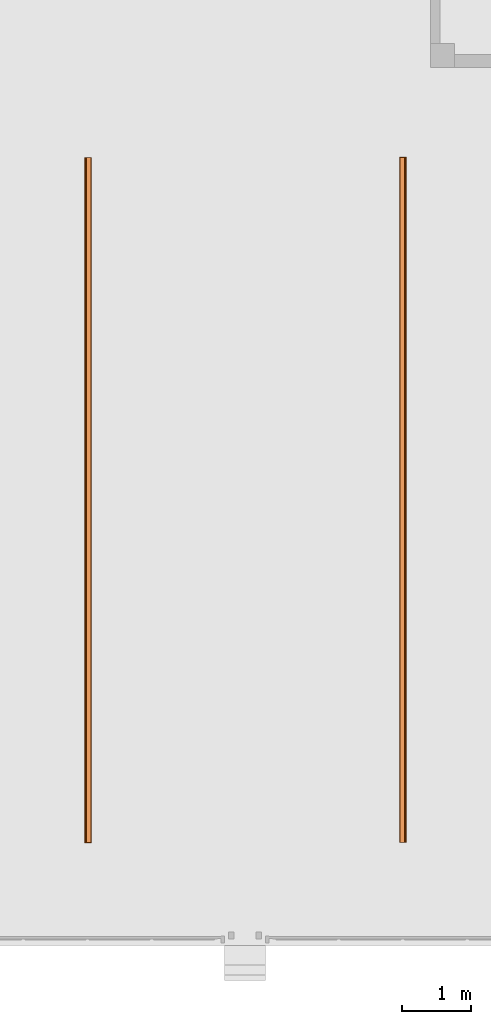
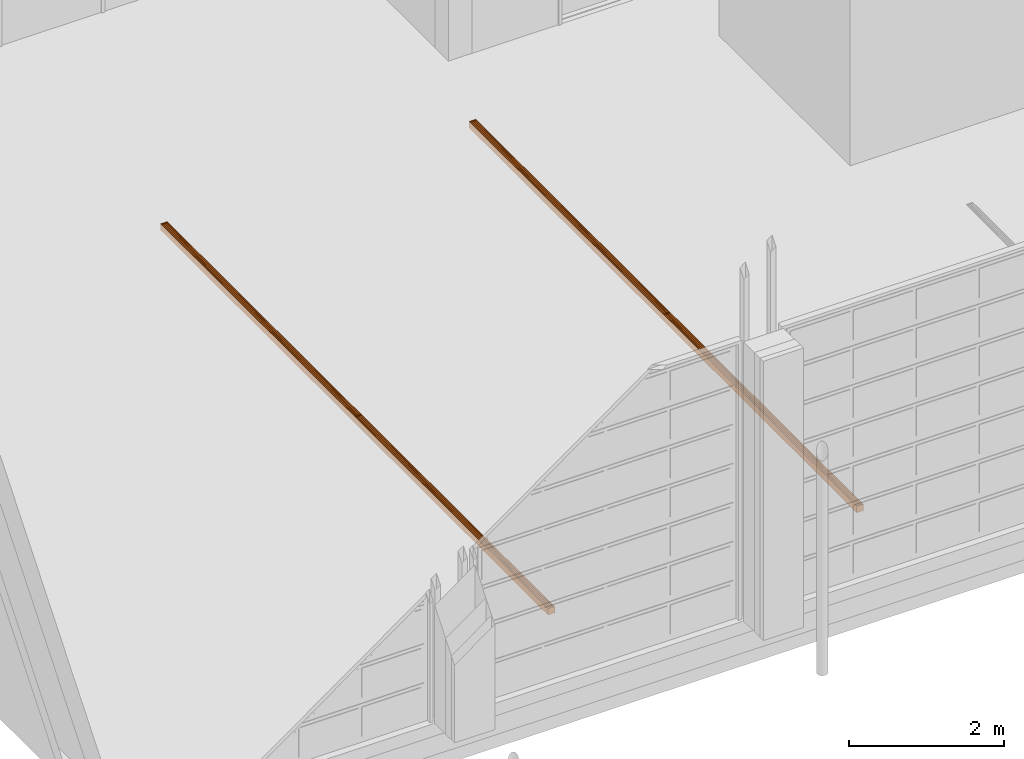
# One storey, part 63 of 112: 2 proxies.
"""IFC2X3 building model written with IfcOpenShell, lengths in millimetres."""

from ifc_helpers import new_model, entity, si_unit, converted_unit, derived_unit, money_unit, direction, frame, origin_with_axes, place, context, subcontext, project, spatial, faceted_brep, source, transform, mapped, type_object, element, save


model = new_model("IFC2X3")

# Units and contexts
model_context = context("Model", 3, precision=0.01, world=origin_with_axes(), true_north=direction((0.0, 1.0)))
body_context = subcontext(model_context, "Body", "Model", "MODEL_VIEW")
ifc_project = project(units=[si_unit("LENGTHUNIT", "METRE", prefix="MILLI"), si_unit("AREAUNIT", "SQUARE_METRE"), si_unit("VOLUMEUNIT", "CUBIC_METRE"), converted_unit("PLANEANGLEUNIT", "DEGREE", entity("IfcPlaneAngleMeasure", 0.0174532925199), si_unit("PLANEANGLEUNIT", "RADIAN"), dimensions=[0, 0, 0, 0, 0, 0, 0]), si_unit("SOLIDANGLEUNIT", "STERADIAN"), money_unit("EUR"), converted_unit("TIMEUNIT", "Year", entity("IfcTimeMeasure", 31556926.0), si_unit("TIMEUNIT", "SECOND"), dimensions=[0, 0, 1, 0, 0, 0, 0]), si_unit("MASSUNIT", "GRAM", prefix="KILO"), si_unit("THERMODYNAMICTEMPERATUREUNIT", "DEGREE_CELSIUS"), si_unit("LUMINOUSINTENSITYUNIT", "LUMEN"), si_unit("ENERGYUNIT", "JOULE", prefix="MEGA"), derived_unit("THERMALCONDUCTANCEUNIT", [(si_unit("POWERUNIT", "WATT"), 1), (si_unit("LENGTHUNIT", "METRE"), -1), (si_unit("THERMODYNAMICTEMPERATUREUNIT", "KELVIN"), -1)]), derived_unit("SPECIFICHEATCAPACITYUNIT", [(si_unit("ENERGYUNIT", "JOULE"), 1), (si_unit("MASSUNIT", "GRAM", prefix="KILO"), -1), (si_unit("THERMODYNAMICTEMPERATUREUNIT", "KELVIN"), -1)]), derived_unit("MASSDENSITYUNIT", [(si_unit("MASSUNIT", "GRAM", prefix="KILO"), 1), (si_unit("VOLUMEUNIT", "CUBIC_METRE"), -1)])], contexts=[model_context])

# Site, building, storey
site_placement = place(None, origin_with_axes())
site = spatial("IfcSite", under=ifc_project, at=site_placement, Name="Politse- ja Piirivalveameti ning Päästeameti ühishoone", CompositionType="ELEMENT")
building_placement = place(site_placement, origin_with_axes())
building = spatial("IfcBuilding", under=site, at=building_placement, Name="Politse- ja Piirivalveameti ning Päästeameti ühishoone", CompositionType="ELEMENT")
storey_placement = place(building_placement, origin_with_axes())
storey = spatial("IfcBuildingStorey", under=building, at=storey_placement, Name="Esimene korrus", CompositionType="ELEMENT", Elevation=0.0)

# Proxies
building_element_proxy_type = type_object("IfcBuildingElementProxyType", Name="Grid 23", PredefinedType="NOTDEFINED")
shared_shape = source(origin_with_axes(), body_context, "Body", "Brep", [
    faceted_brep([(0.0, 0.0, 0.0), (5.0, 5.0, 0.0), (5.0, 5.0, 100.0), (0.0, 0.0, 100.0), (0.0, 10000.0, 0.0), (5.0, 9995.0, 0.0), (5.0, 5001.0, 0.0), (5.0, 4999.0, 0.0), (5.0, 4999.0, 100.0), (5.0, 5001.0, 100.0), (5.0, 9995.0, 100.0), (0.0, 10000.0, 100.0)], [[[0, 1, 2, 3]], [[0, 4, 5, 6, 7, 1]], [[1, 7, 8, 2]], [[3, 2, 8, 9, 10, 11]], [[4, 0, 3, 11]], [[5, 4, 11, 10]], [[6, 5, 10, 9]], [[7, 6, 9, 8]]]),
    faceted_brep([(100.0, 10000.0, 0.0), (95.0, 9995.0, 0.0), (95.0, 9995.0, 100.0), (100.0, 10000.0, 100.0), (100.0, 0.0, 0.0), (95.0, 5.0, 0.0), (95.0, 4999.0, 0.0), (95.0, 5001.0, 0.0), (95.0, 5001.0, 100.0), (95.0, 4999.0, 100.0), (95.0, 5.0, 100.0), (100.0, 0.0, 100.0)], [[[0, 1, 2, 3]], [[0, 4, 5, 6, 7, 1]], [[1, 7, 8, 2]], [[3, 2, 8, 9, 10, 11]], [[4, 0, 3, 11]], [[5, 4, 11, 10]], [[6, 5, 10, 9]], [[7, 6, 9, 8]]]),
    faceted_brep([(100.0, 0.0, 0.0), (95.0, 5.0, 0.0), (95.0, 5.0, 100.0), (100.0, 0.0, 100.0), (0.0, 0.0, 0.0), (5.0, 5.0, 0.0), (25.25, 5.0, 0.0), (27.25, 5.0, 0.0), (49.0, 5.0, 0.0), (51.0, 5.0, 0.0), (72.75, 5.0, 0.0), (74.75, 5.0, 0.0), (74.75, 5.0, 100.0), (72.75, 5.0, 100.0), (51.0, 5.0, 100.0), (49.0, 5.0, 100.0), (27.25, 5.0, 100.0), (25.25, 5.0, 100.0), (5.0, 5.0, 100.0), (0.0, 0.0, 100.0)], [[[0, 1, 2, 3]], [[0, 4, 5, 6, 7, 8, 9, 10, 11, 1]], [[1, 11, 12, 2]], [[3, 2, 12, 13, 14, 15, 16, 17, 18, 19]], [[4, 0, 3, 19]], [[5, 4, 19, 18]], [[6, 5, 18, 17]], [[7, 6, 17, 16]], [[8, 7, 16, 15]], [[9, 8, 15, 14]], [[10, 9, 14, 13]], [[11, 10, 13, 12]]]),
    faceted_brep([(0.0, 10000.0, 0.0), (5.0, 9995.0, 0.0), (5.0, 9995.0, 100.0), (0.0, 10000.0, 100.0), (100.0, 10000.0, 0.0), (95.0, 9995.0, 0.0), (74.75, 9995.0, 0.0), (72.75, 9995.0, 0.0), (51.0, 9995.0, 0.0), (49.0, 9995.0, 0.0), (27.25, 9995.0, 0.0), (25.25, 9995.0, 0.0), (25.25, 9995.0, 100.0), (27.25, 9995.0, 100.0), (49.0, 9995.0, 100.0), (51.0, 9995.0, 100.0), (72.75, 9995.0, 100.0), (74.75, 9995.0, 100.0), (95.0, 9995.0, 100.0), (100.0, 10000.0, 100.0)], [[[0, 1, 2, 3]], [[0, 4, 5, 6, 7, 8, 9, 10, 11, 1]], [[1, 11, 12, 2]], [[3, 2, 12, 13, 14, 15, 16, 17, 18, 19]], [[4, 0, 3, 19]], [[5, 4, 19, 18]], [[6, 5, 18, 17]], [[7, 6, 17, 16]], [[8, 7, 16, 15]], [[9, 8, 15, 14]], [[10, 9, 14, 13]], [[11, 10, 13, 12]]]),
    faceted_brep([(25.25, 5.0, 0.0), (27.25, 5.0, 0.0), (27.25, 5.0, 100.0), (25.25, 5.0, 100.0), (25.25, 4999.0, 0.0), (25.25, 5001.0, 0.0), (25.25, 9995.0, 0.0), (27.25, 9995.0, 0.0), (27.25, 5001.0, 0.0), (27.25, 4999.0, 0.0), (27.25, 4999.0, 100.0), (27.25, 5001.0, 100.0), (27.25, 9995.0, 100.0), (25.25, 9995.0, 100.0), (25.25, 5001.0, 100.0), (25.25, 4999.0, 100.0)], [[[0, 1, 2, 3]], [[0, 4, 5, 6, 7, 8, 9, 1]], [[1, 9, 10, 2]], [[3, 2, 10, 11, 12, 13, 14, 15]], [[4, 0, 3, 15]], [[5, 4, 15, 14]], [[6, 5, 14, 13]], [[7, 6, 13, 12]], [[8, 7, 12, 11]], [[9, 8, 11, 10]]]),
    faceted_brep([(49.0, 5.0, 0.0), (51.0, 5.0, 0.0), (51.0, 5.0, 100.0), (49.0, 5.0, 100.0), (49.0, 4999.0, 0.0), (49.0, 5001.0, 0.0), (49.0, 9995.0, 0.0), (51.0, 9995.0, 0.0), (51.0, 5001.0, 0.0), (51.0, 4999.0, 0.0), (51.0, 4999.0, 100.0), (51.0, 5001.0, 100.0), (51.0, 9995.0, 100.0), (49.0, 9995.0, 100.0), (49.0, 5001.0, 100.0), (49.0, 4999.0, 100.0)], [[[0, 1, 2, 3]], [[0, 4, 5, 6, 7, 8, 9, 1]], [[1, 9, 10, 2]], [[3, 2, 10, 11, 12, 13, 14, 15]], [[4, 0, 3, 15]], [[5, 4, 15, 14]], [[6, 5, 14, 13]], [[7, 6, 13, 12]], [[8, 7, 12, 11]], [[9, 8, 11, 10]]]),
    faceted_brep([(72.75, 5.0, 0.0), (74.75, 5.0, 0.0), (74.75, 5.0, 100.0), (72.75, 5.0, 100.0), (72.75, 4999.0, 0.0), (72.75, 5001.0, 0.0), (72.75, 9995.0, 0.0), (74.75, 9995.0, 0.0), (74.75, 5001.0, 0.0), (74.75, 4999.0, 0.0), (74.75, 4999.0, 100.0), (74.75, 5001.0, 100.0), (74.75, 9995.0, 100.0), (72.75, 9995.0, 100.0), (72.75, 5001.0, 100.0), (72.75, 4999.0, 100.0)], [[[0, 1, 2, 3]], [[0, 4, 5, 6, 7, 8, 9, 1]], [[1, 9, 10, 2]], [[3, 2, 10, 11, 12, 13, 14, 15]], [[4, 0, 3, 15]], [[5, 4, 15, 14]], [[6, 5, 14, 13]], [[7, 6, 13, 12]], [[8, 7, 12, 11]], [[9, 8, 11, 10]]]),
    faceted_brep([(25.25, 4999.0, 0.0), (25.25, 5001.0, 0.0), (25.25, 5001.0, 100.0), (25.25, 4999.0, 100.0), (5.0, 4999.0, 0.0), (5.0, 5001.0, 0.0), (5.0, 5001.0, 100.0), (5.0, 4999.0, 100.0)], [[[0, 1, 2, 3]], [[0, 4, 5, 1]], [[1, 5, 6, 2]], [[3, 2, 6, 7]], [[4, 0, 3, 7]], [[5, 4, 7, 6]]]),
    faceted_brep([(49.0, 4999.0, 0.0), (49.0, 5001.0, 0.0), (49.0, 5001.0, 100.0), (49.0, 4999.0, 100.0), (27.25, 4999.0, 0.0), (27.25, 5001.0, 0.0), (27.25, 5001.0, 100.0), (27.25, 4999.0, 100.0)], [[[0, 1, 2, 3]], [[0, 4, 5, 1]], [[1, 5, 6, 2]], [[3, 2, 6, 7]], [[4, 0, 3, 7]], [[5, 4, 7, 6]]]),
    faceted_brep([(72.75, 4999.0, 0.0), (72.75, 5001.0, 0.0), (72.75, 5001.0, 100.0), (72.75, 4999.0, 100.0), (51.0, 4999.0, 0.0), (51.0, 5001.0, 0.0), (51.0, 5001.0, 100.0), (51.0, 4999.0, 100.0)], [[[0, 1, 2, 3]], [[0, 4, 5, 1]], [[1, 5, 6, 2]], [[3, 2, 6, 7]], [[4, 0, 3, 7]], [[5, 4, 7, 6]]]),
    faceted_brep([(95.0, 4999.0, 0.0), (95.0, 5001.0, 0.0), (95.0, 5001.0, 100.0), (95.0, 4999.0, 100.0), (74.75, 4999.0, 0.0), (74.75, 5001.0, 0.0), (74.75, 5001.0, 100.0), (74.75, 4999.0, 100.0)], [[[0, 1, 2, 3]], [[0, 4, 5, 1]], [[1, 5, 6, 2]], [[3, 2, 6, 7]], [[4, 0, 3, 7]], [[5, 4, 7, 6]]]),
    faceted_brep([(5.0, 5.0, 43.65), (25.25, 5.0, 43.65), (25.25, 5.0, 56.35), (5.0, 5.0, 56.35), (5.0, 4999.0, 43.65), (25.25, 4999.0, 43.65), (25.25, 4999.0, 56.35), (5.0, 4999.0, 56.35)], [[[0, 1, 2, 3]], [[0, 4, 5, 1]], [[1, 5, 6, 2]], [[3, 2, 6, 7]], [[4, 0, 3, 7]], [[5, 4, 7, 6]]]),
    faceted_brep([(5.0, 5001.0, 43.65), (25.25, 5001.0, 43.65), (25.25, 5001.0, 56.35), (5.0, 5001.0, 56.35), (5.0, 9995.0, 43.65), (25.25, 9995.0, 43.65), (25.25, 9995.0, 56.35), (5.0, 9995.0, 56.35)], [[[0, 1, 2, 3]], [[0, 4, 5, 1]], [[1, 5, 6, 2]], [[3, 2, 6, 7]], [[4, 0, 3, 7]], [[5, 4, 7, 6]]]),
    faceted_brep([(27.25, 5.0, 43.65), (49.0, 5.0, 43.65), (49.0, 5.0, 56.35), (27.25, 5.0, 56.35), (27.25, 4999.0, 43.65), (49.0, 4999.0, 43.65), (49.0, 4999.0, 56.35), (27.25, 4999.0, 56.35)], [[[0, 1, 2, 3]], [[0, 4, 5, 1]], [[1, 5, 6, 2]], [[3, 2, 6, 7]], [[4, 0, 3, 7]], [[5, 4, 7, 6]]]),
    faceted_brep([(27.25, 5001.0, 43.65), (49.0, 5001.0, 43.65), (49.0, 5001.0, 56.35), (27.25, 5001.0, 56.35), (27.25, 9995.0, 43.65), (49.0, 9995.0, 43.65), (49.0, 9995.0, 56.35), (27.25, 9995.0, 56.35)], [[[0, 1, 2, 3]], [[0, 4, 5, 1]], [[1, 5, 6, 2]], [[3, 2, 6, 7]], [[4, 0, 3, 7]], [[5, 4, 7, 6]]]),
    faceted_brep([(51.0, 5.0, 43.65), (72.75, 5.0, 43.65), (72.75, 5.0, 56.35), (51.0, 5.0, 56.35), (51.0, 4999.0, 43.65), (72.75, 4999.0, 43.65), (72.75, 4999.0, 56.35), (51.0, 4999.0, 56.35)], [[[0, 1, 2, 3]], [[0, 4, 5, 1]], [[1, 5, 6, 2]], [[3, 2, 6, 7]], [[4, 0, 3, 7]], [[5, 4, 7, 6]]]),
    faceted_brep([(51.0, 5001.0, 43.65), (72.75, 5001.0, 43.65), (72.75, 5001.0, 56.35), (51.0, 5001.0, 56.35), (51.0, 9995.0, 43.65), (72.75, 9995.0, 43.65), (72.75, 9995.0, 56.35), (51.0, 9995.0, 56.35)], [[[0, 1, 2, 3]], [[0, 4, 5, 1]], [[1, 5, 6, 2]], [[3, 2, 6, 7]], [[4, 0, 3, 7]], [[5, 4, 7, 6]]]),
    faceted_brep([(74.75, 5.0, 43.65), (95.0, 5.0, 43.65), (95.0, 5.0, 56.35), (74.75, 5.0, 56.35), (74.75, 4999.0, 43.65), (95.0, 4999.0, 43.65), (95.0, 4999.0, 56.35), (74.75, 4999.0, 56.35)], [[[0, 1, 2, 3]], [[0, 4, 5, 1]], [[1, 5, 6, 2]], [[3, 2, 6, 7]], [[4, 0, 3, 7]], [[5, 4, 7, 6]]]),
    faceted_brep([(74.75, 5001.0, 43.65), (95.0, 5001.0, 43.65), (95.0, 5001.0, 56.35), (74.75, 5001.0, 56.35), (74.75, 9995.0, 43.65), (95.0, 9995.0, 43.65), (95.0, 9995.0, 56.35), (74.75, 9995.0, 56.35)], [[[0, 1, 2, 3]], [[0, 4, 5, 1]], [[1, 5, 6, 2]], [[3, 2, 6, 7]], [[4, 0, 3, 7]], [[5, 4, 7, 6]]]),
])
for number, where, z_axis, x_axis, name in (
    (1, (6854.91421387, 1500.0, -100.0), (0.0, 0.0, 1.0), (1.0, 0.0, 0.0), "Äravoolurenn (105)"),
    (2, (11453.4204853, 1502.5, -100.0), (0.0, 0.0, 1.0), (1.0, 0.0, 0.0), "Äravoolurenn (105)"),
):
    element("IfcBuildingElementProxy", number, at=place(storey_placement, frame(where, z_axis=z_axis, x_axis=x_axis)), inside=storey, type_object=building_element_proxy_type, Name=name, context=body_context, shape_type="MappedRepresentation", body=[
        mapped(shared_shape, transform((0.0, 0.0, 0.0))),
    ])

save(model, "model.ifc")
